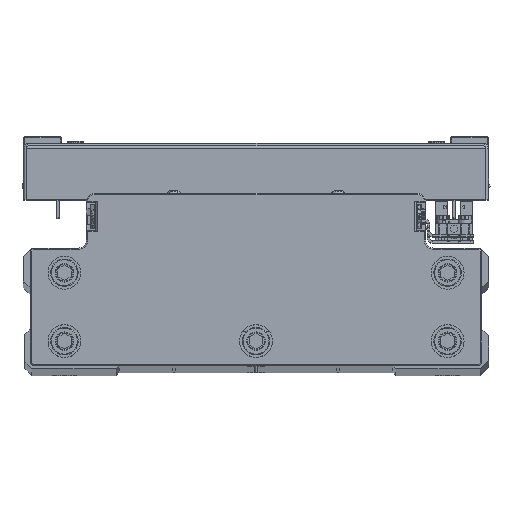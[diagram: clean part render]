
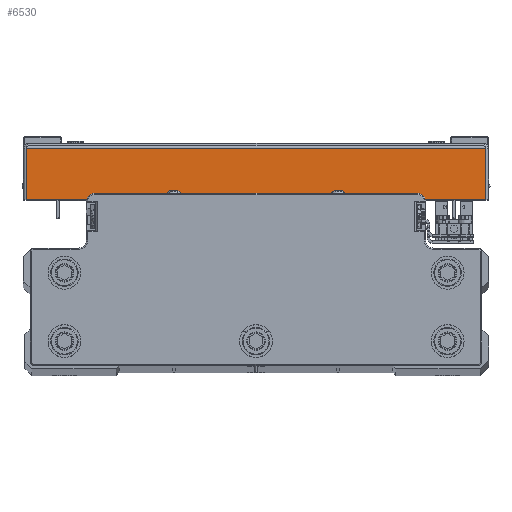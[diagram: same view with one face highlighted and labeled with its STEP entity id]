
A CAD part, top view. The second image highlights one B-rep face of the part: STEP entity #6530.
In plain terms, the highlighted planar face has unit normal (0, 0, 1) as drawn and (1, 0, 0) by its records, which use the part's own axes.
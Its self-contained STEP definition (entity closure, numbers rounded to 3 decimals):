
#74 = CARTESIAN_POINT ( 'NONE',  ( 110., 0., 83.929 ) ) ;
#1800 = FACE_OUTER_BOUND ( 'NONE', #36189, .T. ) ;
#4277 = VERTEX_POINT ( 'NONE', #10099 ) ;
#4679 = VECTOR ( 'NONE', #34097, 1000. ) ;
#5826 = LINE ( 'NONE', #19967, #4679 ) ;
#6530 = ADVANCED_FACE ( 'NONE', ( #1800 ), #15979, .F. ) ;
#7644 = DIRECTION ( 'NONE',  ( 0., 1., 0. ) ) ;
#8659 = ORIENTED_EDGE ( 'NONE', *, *, #36824, .F. ) ;
#9035 = CARTESIAN_POINT ( 'NONE',  ( 110., 19.5, -83.929 ) ) ;
#9114 = DIRECTION ( 'NONE',  ( 0., 0., 1. ) ) ;
#10064 = VECTOR ( 'NONE', #9114, 1000. ) ;
#10099 = CARTESIAN_POINT ( 'NONE',  ( 110., 1., 83.929 ) ) ;
#10173 = AXIS2_PLACEMENT_3D ( 'NONE', #30105, #44229, #12506 ) ;
#10297 = ORIENTED_EDGE ( 'NONE', *, *, #25659, .F. ) ;
#10515 = ORIENTED_EDGE ( 'NONE', *, *, #21946, .T. ) ;
#11408 = CARTESIAN_POINT ( 'NONE',  ( 110., 1., -83.929 ) ) ;
#11697 = VERTEX_POINT ( 'NONE', #17324 ) ;
#12506 = DIRECTION ( 'NONE',  ( 0., -1., 0. ) ) ;
#14247 = DIRECTION ( 'NONE',  ( 0., 1., 0. ) ) ;
#15979 = PLANE ( 'NONE',  #10173 ) ;
#16718 = VECTOR ( 'NONE', #7644, 1000. ) ;
#17324 = CARTESIAN_POINT ( 'NONE',  ( 110., 19.5, 83.929 ) ) ;
#18598 = VECTOR ( 'NONE', #14247, 1000. ) ;
#19967 = CARTESIAN_POINT ( 'NONE',  ( 110., 1., 85. ) ) ;
#21946 = EDGE_CURVE ( 'NONE', #27471, #11697, #26723, .T. ) ;
#25259 = LINE ( 'NONE', #39375, #16718 ) ;
#25659 = EDGE_CURVE ( 'NONE', #4277, #11697, #31851, .T. ) ;
#26723 = LINE ( 'NONE', #40840, #10064 ) ;
#27471 = VERTEX_POINT ( 'NONE', #9035 ) ;
#30105 = CARTESIAN_POINT ( 'NONE',  ( 110., 0., 0. ) ) ;
#31299 = EDGE_CURVE ( 'NONE', #35292, #27471, #25259, .T. ) ;
#31851 = LINE ( 'NONE', #74, #18598 ) ;
#34097 = DIRECTION ( 'NONE',  ( 0., 0., 1. ) ) ;
#34767 = ORIENTED_EDGE ( 'NONE', *, *, #31299, .T. ) ;
#35292 = VERTEX_POINT ( 'NONE', #11408 ) ;
#36189 = EDGE_LOOP ( 'NONE', ( #8659, #34767, #10515, #10297 ) ) ;
#36824 = EDGE_CURVE ( 'NONE', #35292, #4277, #5826, .T. ) ;
#39375 = CARTESIAN_POINT ( 'NONE',  ( 110., 0., -83.929 ) ) ;
#40840 = CARTESIAN_POINT ( 'NONE',  ( 110., 19.5, 0. ) ) ;
#44229 = DIRECTION ( 'NONE',  ( -1., 0., 0. ) ) ;
